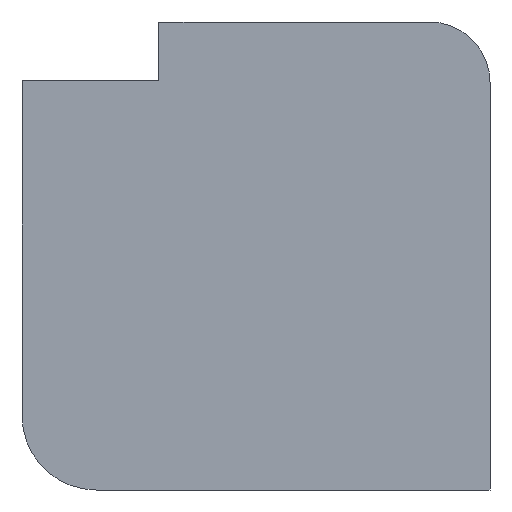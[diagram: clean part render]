
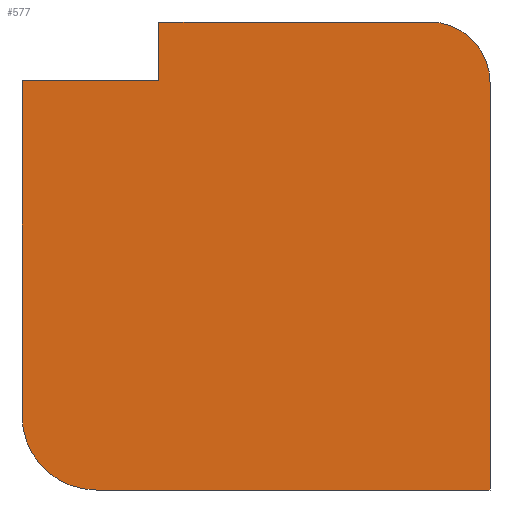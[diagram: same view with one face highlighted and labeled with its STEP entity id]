
A CAD part, front view. The second image highlights one B-rep face of the part: STEP entity #577.
In plain terms, the highlighted planar face has unit normal (0, -1, 0).
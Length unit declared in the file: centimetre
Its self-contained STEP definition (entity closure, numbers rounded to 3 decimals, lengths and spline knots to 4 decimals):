
#2 = EDGE_CURVE ( 'NONE', #296, #251, #56, .T. ) ;
#3 = DIRECTION ( 'NONE',  ( 1., 0., 0. ) ) ;
#21 = CARTESIAN_POINT ( 'NONE',  ( 0., 0., 1000. ) ) ;
#35 = DIRECTION ( 'NONE',  ( 0., 0., 1. ) ) ;
#48 = LINE ( 'NONE', #271, #639 ) ;
#56 = LINE ( 'NONE', #571, #898 ) ;
#79 = EDGE_CURVE ( 'NONE', #704, #269, #312, .T. ) ;
#99 = DIRECTION ( 'NONE',  ( 0., 0., 1. ) ) ;
#112 = VERTEX_POINT ( 'NONE', #221 ) ;
#124 = ORIENTED_EDGE ( 'NONE', *, *, #218, .F. ) ;
#150 = DIRECTION ( 'NONE',  ( 0., 0., 1. ) ) ;
#175 = VERTEX_POINT ( 'NONE', #284 ) ;
#183 = DIRECTION ( 'NONE',  ( 0., 0., -1. ) ) ;
#196 = VERTEX_POINT ( 'NONE', #417 ) ;
#218 = EDGE_CURVE ( 'NONE', #296, #112, #945, .T. ) ;
#221 = CARTESIAN_POINT ( 'NONE',  ( 292.6198, 0., 1000. ) ) ;
#222 = VECTOR ( 'NONE', #614, 100. ) ;
#223 = EDGE_CURVE ( 'NONE', #112, #196, #48, .T. ) ;
#230 = EDGE_CURVE ( 'NONE', #803, #175, #701, .T. ) ;
#251 = VERTEX_POINT ( 'NONE', #712 ) ;
#253 = CARTESIAN_POINT ( 'NONE',  ( 292.6198, 0., 874.5898 ) ) ;
#255 = DIRECTION ( 'NONE',  ( 0., -1., 0. ) ) ;
#259 = CARTESIAN_POINT ( 'NONE',  ( 292.6198, 0., 874.5898 ) ) ;
#269 = VERTEX_POINT ( 'NONE', #857 ) ;
#271 = CARTESIAN_POINT ( 'NONE',  ( 0., 0., 1000. ) ) ;
#284 = CARTESIAN_POINT ( 'NONE',  ( 1000., 0., 0. ) ) ;
#296 = VERTEX_POINT ( 'NONE', #253 ) ;
#312 = CIRCLE ( 'NONE', #864, 159.3806 ) ;
#350 = ORIENTED_EDGE ( 'NONE', *, *, #965, .T. ) ;
#372 = ORIENTED_EDGE ( 'NONE', *, *, #2, .T. ) ;
#404 = ORIENTED_EDGE ( 'NONE', *, *, #223, .F. ) ;
#407 = DIRECTION ( 'NONE',  ( 1., 0., 0. ) ) ;
#417 = CARTESIAN_POINT ( 'NONE',  ( 870.8286, 0., 1000. ) ) ;
#419 = ORIENTED_EDGE ( 'NONE', *, *, #658, .T. ) ;
#427 = ORIENTED_EDGE ( 'NONE', *, *, #79, .T. ) ;
#487 = AXIS2_PLACEMENT_3D ( 'NONE', #766, #255, #99 ) ;
#488 = CARTESIAN_POINT ( 'NONE',  ( 1000., 0., 1000. ) ) ;
#507 = DIRECTION ( 'NONE',  ( 0., -1., 0. ) ) ;
#559 = CARTESIAN_POINT ( 'NONE',  ( 0., 0., 159.3806 ) ) ;
#562 = EDGE_CURVE ( 'NONE', #269, #175, #675, .T. ) ;
#571 = CARTESIAN_POINT ( 'NONE',  ( 292.6198, 0., 874.5898 ) ) ;
#575 = DIRECTION ( 'NONE',  ( -1., 0., 0. ) ) ;
#577 = ADVANCED_FACE ( 'NONE', ( #832 ), #896, .F. ) ;
#614 = DIRECTION ( 'NONE',  ( 0., 0., -1. ) ) ;
#639 = VECTOR ( 'NONE', #407, 100. ) ;
#657 = VECTOR ( 'NONE', #183, 100. ) ;
#658 = EDGE_CURVE ( 'NONE', #251, #704, #758, .T. ) ;
#675 = LINE ( 'NONE', #900, #802 ) ;
#686 = ORIENTED_EDGE ( 'NONE', *, *, #230, .F. ) ;
#701 = LINE ( 'NONE', #488, #657 ) ;
#704 = VERTEX_POINT ( 'NONE', #559 ) ;
#708 = EDGE_LOOP ( 'NONE', ( #124, #372, #419, #427, #722, #686, #350, #404 ) ) ;
#712 = CARTESIAN_POINT ( 'NONE',  ( 0., 0., 874.5898 ) ) ;
#715 = VECTOR ( 'NONE', #35, 100. ) ;
#722 = ORIENTED_EDGE ( 'NONE', *, *, #562, .T. ) ;
#754 = CARTESIAN_POINT ( 'NONE',  ( 0., 0., 1000. ) ) ;
#758 = LINE ( 'NONE', #21, #222 ) ;
#766 = CARTESIAN_POINT ( 'NONE',  ( 870.8286, 0., 870.8286 ) ) ;
#773 = CARTESIAN_POINT ( 'NONE',  ( 1000., 0., 870.8286 ) ) ;
#802 = VECTOR ( 'NONE', #3, 100. ) ;
#803 = VERTEX_POINT ( 'NONE', #773 ) ;
#811 = DIRECTION ( 'NONE',  ( 0., 0., 1. ) ) ;
#827 = DIRECTION ( 'NONE',  ( 0., 1., 0. ) ) ;
#832 = FACE_OUTER_BOUND ( 'NONE', #708, .T. ) ;
#857 = CARTESIAN_POINT ( 'NONE',  ( 159.3806, 0., 0. ) ) ;
#864 = AXIS2_PLACEMENT_3D ( 'NONE', #884, #507, #811 ) ;
#884 = CARTESIAN_POINT ( 'NONE',  ( 159.3806, 0., 159.3806 ) ) ;
#896 = PLANE ( 'NONE',  #958 ) ;
#898 = VECTOR ( 'NONE', #575, 100. ) ;
#900 = CARTESIAN_POINT ( 'NONE',  ( 0., 0., 0. ) ) ;
#911 = CIRCLE ( 'NONE', #487, 129.1714 ) ;
#945 = LINE ( 'NONE', #259, #715 ) ;
#958 = AXIS2_PLACEMENT_3D ( 'NONE', #754, #827, #150 ) ;
#965 = EDGE_CURVE ( 'NONE', #803, #196, #911, .T. ) ;
